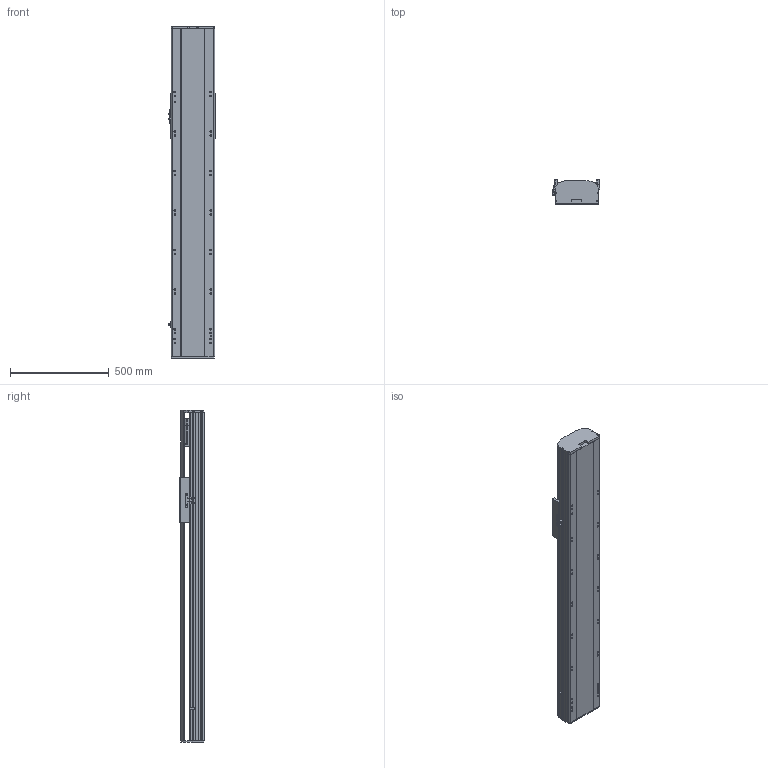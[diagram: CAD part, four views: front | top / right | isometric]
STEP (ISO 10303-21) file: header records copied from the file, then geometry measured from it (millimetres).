
FILE_DESCRIPTION (( 'STEP AP214' ), '1' );
FILE_NAME ('RTH22-XX-1050-B-M75B-C4.STEP', '2025-10-24T10:12:08', ( 'Microsoft' ), ( 'Microsoft' ), 'SwSTEP 2.0', 'SolidWorks 2018', '' );
FILE_SCHEMA (( 'AUTOMOTIVE_DESIGN' ));
Length unit declared in the file: millimetre
Products named in the file (9): N_RTH22-B008萇儂啣^RTH22-XX-XX-B-M75B-C4; N_RTH22-B-011B菁釱^RTH22-XX-XX-B-M75B-C4; N_RTH22-B-007B奻裔^RTH22-XX-XX-B-M75B-C4; N_OMRON EE-SX672 传感器^RTH22-XX-XX-B-M75B-C4; N_RTH22-E-004-SFS25賑釱^RTH22-XX-XX-B-M75B-C4; N_RTH22-GY-013外置感应片^RTH22-XX-XX-B-M75B-C4; RTH22-XX-1050-B-M75B-C4; N_750W萇儂^RTH22-XX-XX-B-M75B-C4; N_RTH22-GY-001耜裔^RTH22-XX-XX-B-M75B-C4
Assembly tree (10 placements, depth 2):
  RTH22-XX-1050-B-M75B-C4
    N_RTH22-B-011B菁釱^RTH22-XX-XX-B-M75B-C4
    N_RTH22-GY-001耜裔^RTH22-XX-XX-B-M75B-C4
    N_750W萇儂^RTH22-XX-XX-B-M75B-C4
    N_RTH22-B008萇儂啣^RTH22-XX-XX-B-M75B-C4
    N_RTH22-B-007B奻裔^RTH22-XX-XX-B-M75B-C4
    N_OMRON EE-SX672 传感器^RTH22-XX-XX-B-M75B-C4  x3
    N_RTH22-GY-013外置感应片^RTH22-XX-XX-B-M75B-C4
    N_RTH22-E-004-SFS25賑釱^RTH22-XX-XX-B-M75B-C4
Bounding box: 238.5 x 122 x 1680 mm (x, y, z)
Volume: 22532705 mm3; surface area: 2318175.2 mm2
Topology: 10 solids, 10 shells, 1551 faces, 4250 edges, 2743 vertices
Faces by surface type: plane 756, cylinder 454, bspline 279, cone 62
Entity records: 38749 total; most frequent: CARTESIAN_POINT 11993, ORIENTED_EDGE 5468, DIRECTION 5152, EDGE_CURVE 2734, VERTEX_POINT 1779, AXIS2_PLACEMENT_3D 1742, VECTOR 1668, LINE 1668
